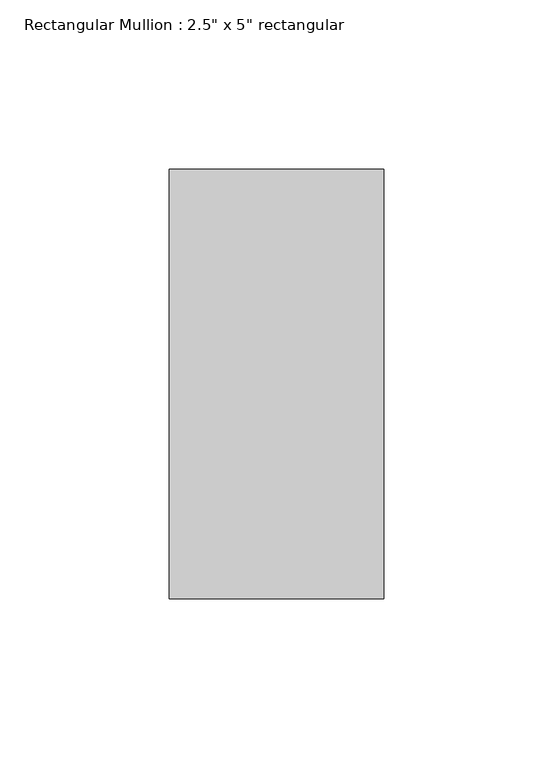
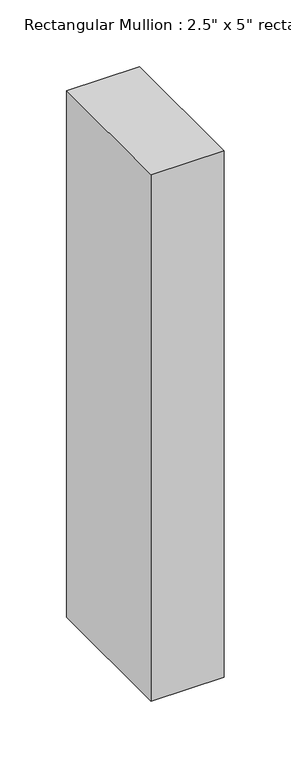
"""IFC4 building model written with IfcOpenShell, lengths in millimetres: member geometry."""

from ifc_helpers import new_model, si_unit, frame, origin, place, context, project, spatial, polyline, outline, extrude, source, transform, mapped, element, save


def member_86d06fe4(model_context):
    return source(origin(), model_context, "Body", "SweptSolid", [
        extrude(outline(polyline([(0.0, 63.5), (0.0, -63.5), (-63.5, -63.5), (-63.5, 63.5), (0.0, 63.5)])), frame((0.0, 0.0, -482.6), z_axis=(0.0, 0.0, 1.0), x_axis=(1.0, 0.0, 0.0)), (0.0, 0.0, 1.0), 482.6),
    ])


if __name__ == "__main__":
    model = new_model("IFC4")
    model_context = context("Model", 3, world=origin())
    ifc_project = project(units=[si_unit("LENGTHUNIT", "METRE", prefix="MILLI")], contexts=[model_context])
    site = spatial("IfcSite", under=ifc_project)
    building = spatial("IfcBuilding", under=site)
    placement = place(None, origin())
    member_shape = member_86d06fe4(model_context)
    element("IfcMember", 1, ObjectType="Rectangular Mullion : 2.5\" x 5\" rectangular", at=placement, inside=building, context=model_context, shape_type="MappedRepresentation", body=[
        mapped(member_shape, transform((0.0, 0.0, 0.0), x_axis=(1.0, 0.0, 0.0), y_axis=(0.0, 1.0, 0.0), z_axis=(0.0, 0.0, 1.0))),
    ])
    save(model, "model.ifc")
